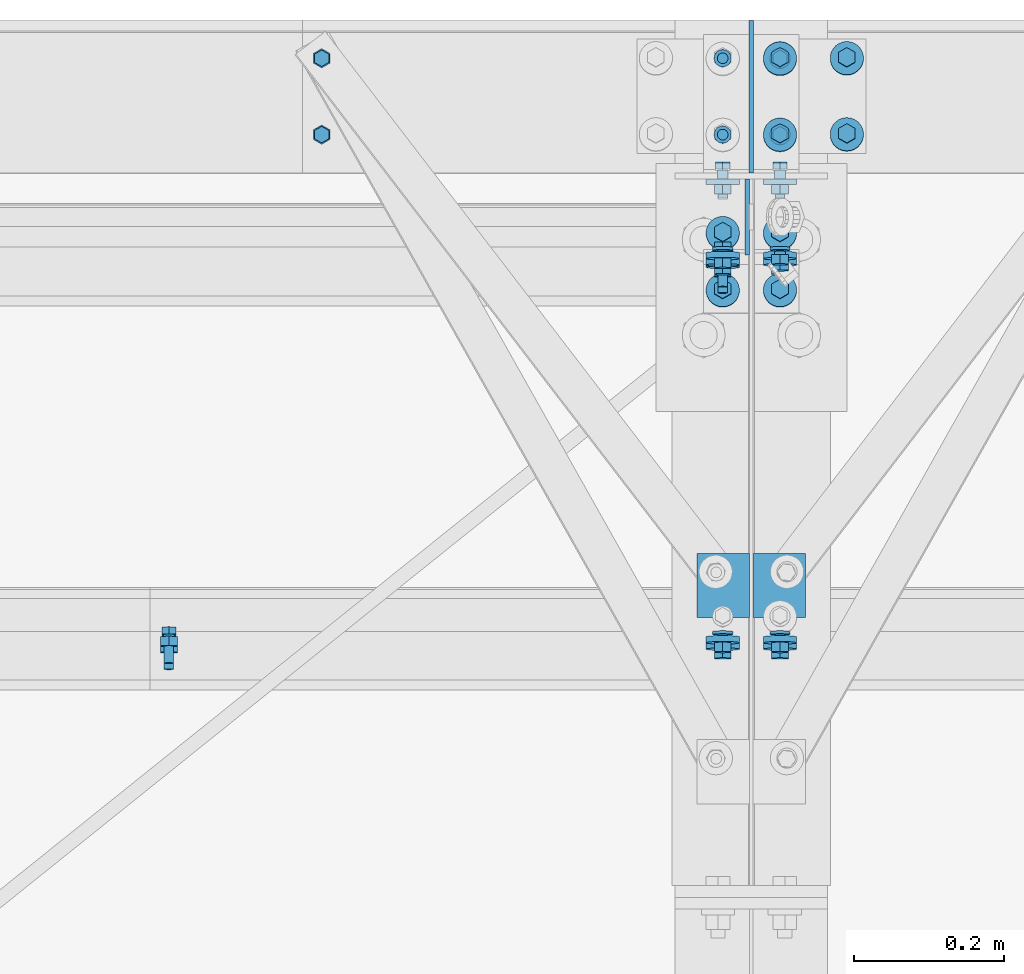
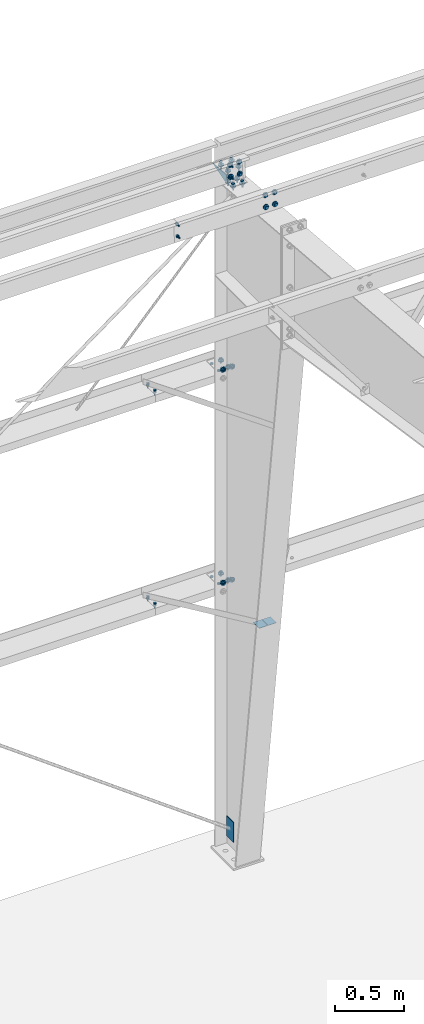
# One storey, part 92 of 185: 19 mechanical fasteners, 4 discrete accessories, 10 elements without a shape of their own.
"""IFC2X3 building model written with IfcOpenShell, lengths in millimetres."""

from ifc_helpers import new_model, si_unit, frame, origin_with_axes, origin_2d_with_axis, place, context, subcontext, project, spatial, polyline, rectangle, circle, outline, extrude, source, transform, mapped, material, type_object, element, aggregate, save


model = new_model("IFC2X3")

# Units and contexts
model_context = context("Model", 3, precision=1e-05, world=origin_with_axes())
body_context = subcontext(model_context, "Body", "Model", "MODEL_VIEW")
ifc_project = project(units=[si_unit("LENGTHUNIT", "METRE", prefix="MILLI"), si_unit("AREAUNIT", "SQUARE_METRE"), si_unit("VOLUMEUNIT", "CUBIC_METRE"), si_unit("MASSUNIT", "GRAM", prefix="KILO"), si_unit("TIMEUNIT", "SECOND"), si_unit("PLANEANGLEUNIT", "RADIAN"), si_unit("SOLIDANGLEUNIT", "STERADIAN"), si_unit("THERMODYNAMICTEMPERATUREUNIT", "DEGREE_CELSIUS"), si_unit("LUMINOUSINTENSITYUNIT", "LUMEN")], contexts=[model_context])

# Site, building, storey
site_placement = place(None, origin_with_axes())
site = spatial("IfcSite", under=ifc_project, at=site_placement, Name="Undefined", CompositionType="ELEMENT")
building_placement = place(site_placement, origin_with_axes())
building = spatial("IfcBuilding", under=site, at=building_placement, Name="Undefined", CompositionType="ELEMENT")
storey_placement = place(building_placement, origin_with_axes())
storey = spatial("IfcBuildingStorey", under=building, at=storey_placement, Name="Undefined", CompositionType="ELEMENT", Elevation=0.0)

# Assembly, mechanical fasteners
assembly_1_placement = place(storey_placement, origin_with_axes())
assembly_1 = element("IfcElementAssembly", 1, at=assembly_1_placement, inside=storey, Name="Steel Assembly", AssemblyPlace="NOTDEFINED", PredefinedType="RIGID_FRAME")
ifc_material_1 = material(Name="Undefined")
discrete_accessory_type_1 = type_object("IfcDiscreteAccessoryType", Name="Bolt assembly")
shared_shape_1 = source(origin_with_axes(), body_context, "Body", "SweptSolid", [
    extrude(circle(Radius=7.14374971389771, at=origin_2d_with_axis()), frame((0.0, -1.59000001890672, 0.0), z_axis=(0.0, 1.0, 0.0), x_axis=(1.0, 0.0, 0.0)), (0.0, 0.0, 1.0), 3.3),
    extrude(circle(Radius=13.4937496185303, at=origin_2d_with_axis()), frame((0.0, -5.5587500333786, 0.0), z_axis=(0.0, 1.0, 0.0), x_axis=(1.0, 0.0, 0.0)), (0.0, 0.0, 1.0), 4.0),
    extrude(circle(Radius=22.2250003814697, at=origin_2d_with_axis()), frame((0.0, 1.5900000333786, 0.0), z_axis=(0.0, 1.0, 0.0), x_axis=(1.0, 0.0, 0.0)), (0.0, 0.0, 1.0), 7.9),
    extrude(outline(polyline([(12.8316099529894, 0.0), (6.4158049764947, 11.1125001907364), (-6.4158049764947, 11.1125001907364), (-12.8316099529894, 0.0), (-6.4158049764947, -11.1125001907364), (6.4158049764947, -11.1125001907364), (12.8316099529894, 0.0)])), frame((0.0, 9.5275000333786, 0.0), z_axis=(0.0, 1.0, 0.0), x_axis=(1.0, 0.0, 0.0)), (0.0, 0.0, 1.0), 12.3),
])
mechanical_fastener_1_placement = place(assembly_1_placement, frame((14820.9, 31696.1295150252, 6070.67979008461), z_axis=(-1.0, 0.0, 0.0), x_axis=(0.0, -0.0830454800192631, -0.996545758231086)))
mechanical_fastener_1 = element("IfcMechanicalFastener", 2, at=mechanical_fastener_1_placement, type_object=discrete_accessory_type_1, material=ifc_material_1, Name="Bolt assembly", NominalDiameter=12.6999998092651, NominalLength=38.0999984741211, context=body_context, shape_type="MappedRepresentation", body=[
    mapped(shared_shape_1, transform((0.0, 0.0, 0.0))),
    mapped(shared_shape_1, transform((101.599998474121, 0.0, 0.0))),
])
mechanical_fastener_2_placement = place(assembly_1_placement, frame((14897.1, 31696.1295150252, 6070.67979008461), z_axis=(-1.0, 0.0, 0.0), x_axis=(0.0, -0.0830454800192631, -0.996545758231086)))
mechanical_fastener_2 = element("IfcMechanicalFastener", 3, at=mechanical_fastener_2_placement, type_object=discrete_accessory_type_1, material=ifc_material_1, Name="Bolt assembly", NominalDiameter=12.6999998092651, NominalLength=38.0999984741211, context=body_context, shape_type="MappedRepresentation", body=[
    mapped(shared_shape_1, transform((0.0, 0.0, 0.0))),
    mapped(shared_shape_1, transform((101.599998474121, 0.0, 0.0))),
])

# Assembly, mechanical fastener
assembly_2_placement = place(storey_placement, origin_with_axes())
assembly_2 = element("IfcElementAssembly", 4, at=assembly_2_placement, inside=storey, Name="Steel Assembly", AssemblyPlace="NOTDEFINED", PredefinedType="RIGID_FRAME")
mechanical_fastener_3_placement = place(assembly_2_placement, frame((14820.9, 31185.1382206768, 6113.2623980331), z_axis=(-1.0, 0.0, 0.0), x_axis=(0.0, -0.0830454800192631, -0.996545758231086)))
mechanical_fastener_3 = element("IfcMechanicalFastener", 5, at=mechanical_fastener_3_placement, type_object=discrete_accessory_type_1, material=ifc_material_1, Name="Bolt assembly", NominalDiameter=12.6999998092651, NominalLength=38.0999984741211, context=body_context, shape_type="MappedRepresentation", body=[
    mapped(shared_shape_1, transform((0.0, 0.0, 0.0))),
    mapped(shared_shape_1, transform((101.599998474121, 0.0, 0.0))),
])
aggregate(assembly_2, [mechanical_fastener_3])

assembly_3_placement = place(storey_placement, origin_with_axes())
assembly_3 = element("IfcElementAssembly", 6, at=assembly_3_placement, inside=storey, Name="Steel Assembly", AssemblyPlace="NOTDEFINED", PredefinedType="RIGID_FRAME")
mechanical_fastener_4_placement = place(assembly_3_placement, frame((14897.1, 31185.1382206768, 6113.2623980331), z_axis=(-1.0, 0.0, 0.0), x_axis=(0.0, -0.0830454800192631, -0.996545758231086)))
mechanical_fastener_4 = element("IfcMechanicalFastener", 7, at=mechanical_fastener_4_placement, type_object=discrete_accessory_type_1, material=ifc_material_1, Name="Bolt assembly", NominalDiameter=12.6999998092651, NominalLength=38.0999984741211, context=body_context, shape_type="MappedRepresentation", body=[
    mapped(shared_shape_1, transform((0.0, 0.0, 0.0))),
    mapped(shared_shape_1, transform((101.599998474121, 0.0, 0.0))),
])

# Assembly, discrete accessories
assembly_4_placement = place(storey_placement, origin_with_axes())
assembly_4 = element("IfcElementAssembly", 8, at=assembly_4_placement, inside=storey, Name="Steel Assembly", AssemblyPlace="NOTDEFINED", PredefinedType="RIGID_FRAME")
ifc_material_2 = material(Name="STEEL/55")
discrete_accessory_type_2 = type_object("IfcDiscreteAccessoryType", Name="FLANGE BRACE FLIP")
discrete_accessory_1_placement = place(assembly_4_placement, frame((14861.38125, 31251.9277679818, 2284.292), z_axis=(0.0, 1.0, 0.0), x_axis=(1.0, 0.0, 0.0)))
discrete_accessory_1 = element("IfcDiscreteAccessory", 9, at=discrete_accessory_1_placement, type_object=discrete_accessory_type_2, material=ifc_material_2, Name="FLANGE BRACE FLIP", ObjectType="PL1/8\"X2 3/4\"", context=body_context, shape_type="SweptSolid", body=[
    extrude(rectangle(XDim=3.416, YDim=85.725, at=origin_2d_with_axis()), frame((69.8499999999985, 0.0, 0.0), z_axis=(-1.0, 0.0, 0.0), x_axis=(0.0, -1.0, 0.0)), (0.0, 0.0, 1.0), 69.9),
])
discrete_accessory_2_placement = place(assembly_4_placement, frame((14856.61875, 31251.9277679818, 2284.292), z_axis=(0.0, 1.0, 0.0), x_axis=(-1.0, 0.0, 0.0)))
discrete_accessory_2 = element("IfcDiscreteAccessory", 10, at=discrete_accessory_2_placement, type_object=discrete_accessory_type_2, material=ifc_material_2, Name="FLANGE BRACE FLIP", ObjectType="PL1/8\"X2 3/4\"", context=body_context, shape_type="SweptSolid", body=[
    extrude(rectangle(XDim=3.416, YDim=85.725, at=origin_2d_with_axis()), frame((69.8499999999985, 0.0, 0.0), z_axis=(-1.0, 0.0, 0.0), x_axis=(0.0, -1.0, 0.0)), (0.0, 0.0, 1.0), 69.9),
])

# Assembly, mechanical fastener
assembly_5_placement = place(storey_placement, origin_with_axes())
assembly_5 = element("IfcElementAssembly", 11, at=assembly_5_placement, inside=storey, Name="Steel Assembly", AssemblyPlace="NOTDEFINED", PredefinedType="RIGID_FRAME")
shared_shape_2 = source(origin_with_axes(), body_context, "Body", "SweptSolid", [
    extrude(circle(Radius=7.14374971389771, at=origin_2d_with_axis()), frame((0.0, -0.1, 0.0), z_axis=(0.0, 1.0, 0.0), x_axis=(1.0, 0.0, 0.0)), (0.0, 0.0, 1.0), 8.0),
    extrude(circle(Radius=7.14374971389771, at=origin_2d_with_axis()), frame((0.0, -4.66250000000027, 0.0), z_axis=(0.0, 1.0, 0.0), x_axis=(1.0, 0.0, 0.0)), (0.0, 0.0, 1.0), 4.8),
    extrude(outline(polyline([(10.9985221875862, 0.0), (5.4992610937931, 9.52499961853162), (-5.4992610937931, 9.52499961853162), (-10.9985221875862, 0.0), (-5.4992610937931, -9.52499961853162), (5.4992610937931, -9.52499961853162), (10.9985221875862, 0.0)])), frame((0.0, -14.2874996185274, 0.0), z_axis=(0.0, 1.0, 0.0), x_axis=(1.0, 0.0, 0.0)), (0.0, 0.0, 1.0), 9.5),
    extrude(circle(Radius=6.34999990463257, at=origin_2d_with_axis()), frame((0.0, -4.76250000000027, 0.0), z_axis=(0.0, 1.0, 0.0), x_axis=(1.0, 0.0, 0.0)), (0.0, 0.0, 1.0), 38.1),
    extrude(circle(Radius=22.2250003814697, at=origin_2d_with_axis()), frame((0.0, 7.87399999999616, 0.0), z_axis=(0.0, 1.0, 0.0), x_axis=(1.0, 0.0, 0.0)), (0.0, 0.0, 1.0), 7.9),
    extrude(outline(polyline([(12.8316099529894, 0.0), (6.4158049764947, 11.1125001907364), (-6.4158049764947, 11.1125001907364), (-12.8316099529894, 0.0), (-6.4158049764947, -11.1125001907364), (6.4158049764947, -11.1125001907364), (12.8316099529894, 0.0)])), frame((0.0, 15.8114999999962, 0.0), z_axis=(0.0, 1.0, 0.0), x_axis=(1.0, 0.0, 0.0)), (0.0, 0.0, 1.0), 12.3),
])
mechanical_fastener_5_placement = place(assembly_5_placement, frame((14859.0, 31800.8, 4203.7), z_axis=(1.0, 0.0, 0.0), x_axis=(0.0, 0.0, 1.0)))
mechanical_fastener_5 = element("IfcMechanicalFastener", 12, at=mechanical_fastener_5_placement, type_object=discrete_accessory_type_1, material=ifc_material_1, Name="Bolt assembly", NominalDiameter=12.6999998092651, NominalLength=38.0999984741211, context=body_context, shape_type="MappedRepresentation", body=[
    mapped(shared_shape_2, transform((0.0, 0.0, -38.0999984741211))),
    mapped(shared_shape_2, transform((0.0, 0.0, 38.0999984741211))),
])

assembly_6_placement = place(storey_placement, origin_with_axes())
assembly_6 = element("IfcElementAssembly", 13, at=assembly_6_placement, inside=storey, Name="Steel Assembly", AssemblyPlace="NOTDEFINED", PredefinedType="RIGID_FRAME")
mechanical_fastener_6_placement = place(assembly_6_placement, frame((14859.0, 31800.8, 2324.1), z_axis=(1.0, 0.0, 0.0), x_axis=(0.0, 0.0, 1.0)))
mechanical_fastener_6 = element("IfcMechanicalFastener", 14, at=mechanical_fastener_6_placement, type_object=discrete_accessory_type_1, material=ifc_material_1, Name="Bolt assembly", NominalDiameter=12.6999998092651, NominalLength=38.0999984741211, context=body_context, shape_type="MappedRepresentation", body=[
    mapped(shared_shape_2, transform((0.0, 0.0, -38.0999984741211))),
    mapped(shared_shape_2, transform((0.0, 0.0, 38.0999984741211))),
])

# Discrete accessory
discrete_accessory_type_3 = type_object("IfcDiscreteAccessoryType", Name="BACKUP PL SINGLE SLOT")
discrete_accessory_3_placement = place(assembly_4_placement, frame((14853.4437512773, 31742.1288478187, 256.370463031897), z_axis=(-0.000896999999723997, -0.999999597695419, 0.0), x_axis=(0.0, 0.0, -1.0)))
discrete_accessory_3 = element("IfcDiscreteAccessory", 15, at=discrete_accessory_3_placement, type_object=discrete_accessory_type_3, material=ifc_material_2, Name="BACKUP PL SINGLE SLOT", ObjectType="FL1/4\"X4\"", context=body_context, shape_type="SweptSolid", body=[
    extrude(rectangle(XDim=6.35, YDim=101.6, at=origin_2d_with_axis()), frame((177.800000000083, 0.0, 0.0), z_axis=(-1.0, 0.0, 0.0), x_axis=(0.0, -1.0, 0.0)), (0.0, 0.0, 1.0), 177.8),
])

# Assembly, mechanical fasteners
assembly_7_placement = place(storey_placement, origin_with_axes())
assembly_7 = element("IfcElementAssembly", 16, at=assembly_7_placement, inside=storey, Name="Steel Assembly", AssemblyPlace="NOTDEFINED", PredefinedType="RIGID_FRAME")
shared_shape_3 = source(origin_with_axes(), body_context, "Body", "SweptSolid", [
    extrude(circle(Radius=7.14374971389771, at=origin_2d_with_axis()), frame((0.0, 0.0, 0.0), z_axis=(0.0, 1.0, 0.0), x_axis=(1.0, 0.0, 0.0)), (0.0, 0.0, 1.0), 4.9),
    extrude(outline(polyline([(12.8316099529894, 0.0), (6.4158049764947, 11.1125001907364), (-6.4158049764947, 11.1125001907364), (-12.8316099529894, 0.0), (-6.4158049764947, -11.1125001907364), (6.4158049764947, -11.1125001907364), (12.8316099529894, 0.0)])), frame((0.0, 4.76000382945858, 0.0), z_axis=(0.0, 1.0, 0.0), x_axis=(1.0, 0.0, 0.0)), (0.0, 0.0, 1.0), 12.3),
])
mechanical_fastener_7_placement = place(assembly_7_placement, frame((14897.1, 31696.1295150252, 6070.67979008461), z_axis=(-1.0, 0.0, 0.0), x_axis=(0.0, -0.0830454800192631, -0.996545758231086)))
mechanical_fastener_7 = element("IfcMechanicalFastener", 17, at=mechanical_fastener_7_placement, type_object=discrete_accessory_type_1, material=ifc_material_1, Name="Bolt assembly", NominalDiameter=12.6999998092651, NominalLength=50.7999992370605, context=body_context, shape_type="MappedRepresentation", body=[
    mapped(shared_shape_3, transform((0.0, 0.0, 0.0))),
    mapped(shared_shape_3, transform((101.599998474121, 0.0, 0.0))),
])
shared_shape_4 = source(origin_with_axes(), body_context, "Body", "SweptSolid", [
    extrude(circle(Radius=7.14374971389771, at=origin_2d_with_axis()), frame((0.0, 0.0, 0.0), z_axis=(0.0, 1.0, 0.0), x_axis=(1.0, 0.0, 0.0)), (0.0, 0.0, 1.0), 4.9),
    extrude(outline(polyline([(12.8316099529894, 0.0), (6.4158049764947, 11.1125001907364), (-6.4158049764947, 11.1125001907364), (-12.8316099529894, 0.0), (-6.4158049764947, -11.1125001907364), (6.4158049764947, -11.1125001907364), (12.8316099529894, 0.0)])), frame((0.0, -11.9062498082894, 0.0), z_axis=(0.0, 1.0, 0.0), x_axis=(1.0, 0.0, 0.0)), (0.0, 0.0, 1.0), 7.9),
    extrude(circle(Radius=6.34999990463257, at=origin_2d_with_axis()), frame((0.0, -3.96874999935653, 0.0), z_axis=(0.0, 1.0, 0.0), x_axis=(1.0, 0.0, 0.0)), (0.0, 0.0, 1.0), 50.8),
    extrude(circle(Radius=13.4937496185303, at=origin_2d_with_axis()), frame((0.0, -3.96874999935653, 0.0), z_axis=(0.0, 1.0, 0.0), x_axis=(1.0, 0.0, 0.0)), (0.0, 0.0, 1.0), 4.0),
    extrude(circle(Radius=22.2250003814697, at=origin_2d_with_axis()), frame((0.0, 4.76000382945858, 0.0), z_axis=(0.0, 1.0, 0.0), x_axis=(1.0, 0.0, 0.0)), (0.0, 0.0, 1.0), 7.9),
    extrude(outline(polyline([(12.8316099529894, 0.0), (6.4158049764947, 11.1125001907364), (-6.4158049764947, 11.1125001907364), (-12.8316099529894, 0.0), (-6.4158049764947, -11.1125001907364), (6.4158049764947, -11.1125001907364), (12.8316099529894, 0.0)])), frame((0.0, 12.6975038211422, 0.0), z_axis=(0.0, 1.0, 0.0), x_axis=(1.0, 0.0, 0.0)), (0.0, 0.0, 1.0), 12.3),
])
mechanical_fastener_8_placement = place(assembly_7_placement, frame((14820.9, 31696.1295150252, 6070.67979008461), z_axis=(-1.0, 0.0, 0.0), x_axis=(0.0, -0.0830454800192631, -0.996545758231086)))
mechanical_fastener_8 = element("IfcMechanicalFastener", 18, at=mechanical_fastener_8_placement, type_object=discrete_accessory_type_1, material=ifc_material_1, Name="Bolt assembly", NominalDiameter=12.6999998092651, NominalLength=50.7999992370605, context=body_context, shape_type="MappedRepresentation", body=[
    mapped(shared_shape_4, transform((0.0, 0.0, 0.0))),
    mapped(shared_shape_4, transform((101.599998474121, 0.0, 0.0))),
])
aggregate(assembly_7, [mechanical_fastener_7, mechanical_fastener_8])

# Assembly, mechanical fastener
assembly_8_placement = place(storey_placement, origin_with_axes())
assembly_8 = element("IfcElementAssembly", 19, at=assembly_8_placement, inside=storey, Name="Steel Assembly", AssemblyPlace="NOTDEFINED", PredefinedType="RIGID_FRAME")
shared_shape_5 = source(origin_with_axes(), body_context, "Body", "SweptSolid", [
    extrude(circle(Radius=7.14374971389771, at=origin_2d_with_axis()), frame((0.0, -1.4900000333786, 0.0), z_axis=(0.0, 1.0, 0.0), x_axis=(1.0, 0.0, 0.0)), (0.0, 0.0, 1.0), 3.2),
    extrude(circle(Radius=7.14374971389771, at=origin_2d_with_axis()), frame((0.0, -1.4900000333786, 0.0), z_axis=(0.0, 1.0, 0.0), x_axis=(1.0, 0.0, 0.0)), (0.0, 0.0, 1.0), 3.2),
    extrude(outline(polyline([(10.9985221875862, 0.0), (5.4992610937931, 9.52499961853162), (-5.4992610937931, 9.52499961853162), (-10.9985221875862, 0.0), (-5.4992610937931, -9.52499961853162), (5.4992610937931, -9.52499961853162), (10.9985221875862, 0.0)])), frame((0.0, -11.1149996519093, 0.0), z_axis=(0.0, 1.0, 0.0), x_axis=(1.0, 0.0, 0.0)), (0.0, 0.0, 1.0), 9.5),
    extrude(circle(Radius=6.34999990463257, at=origin_2d_with_axis()), frame((0.0, -1.59000001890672, 0.0), z_axis=(0.0, 1.0, 0.0), x_axis=(1.0, 0.0, 0.0)), (0.0, 0.0, 1.0), 38.1),
    extrude(outline(polyline([(12.8316099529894, 0.0), (6.4158049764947, 11.1125001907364), (-6.4158049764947, 11.1125001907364), (-12.8316099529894, 0.0), (-6.4158049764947, -11.1125001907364), (6.4158049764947, -11.1125001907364), (12.8316099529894, 0.0)])), frame((0.0, 1.5900000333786, 0.0), z_axis=(0.0, 1.0, 0.0), x_axis=(1.0, 0.0, 0.0)), (0.0, 0.0, 1.0), 12.3),
])
mechanical_fastener_9_placement = place(assembly_8_placement, frame((14287.5, 31953.2, 4165.6), z_axis=(1.0, 0.0, 0.0), x_axis=(0.0, -1.0, 0.0)))
mechanical_fastener_9 = element("IfcMechanicalFastener", 20, at=mechanical_fastener_9_placement, type_object=discrete_accessory_type_1, material=ifc_material_1, Name="Bolt assembly", NominalDiameter=12.6999998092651, NominalLength=38.0999984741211, context=body_context, shape_type="MappedRepresentation", body=[
    mapped(shared_shape_5, transform((0.0, 0.0, 0.0))),
    mapped(shared_shape_5, transform((101.599998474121, 0.0, 0.0))),
])

assembly_9_placement = place(storey_placement, origin_with_axes())
assembly_9 = element("IfcElementAssembly", 21, at=assembly_9_placement, inside=storey, Name="Steel Assembly", AssemblyPlace="NOTDEFINED", PredefinedType="RIGID_FRAME")
mechanical_fastener_10_placement = place(assembly_9_placement, frame((14287.5, 31953.2, 2286.0), z_axis=(1.0, 0.0, 0.0), x_axis=(0.0, -1.0, 0.0)))
mechanical_fastener_10 = element("IfcMechanicalFastener", 22, at=mechanical_fastener_10_placement, type_object=discrete_accessory_type_1, material=ifc_material_1, Name="Bolt assembly", NominalDiameter=12.6999998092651, NominalLength=38.0999984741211, context=body_context, shape_type="MappedRepresentation", body=[
    mapped(shared_shape_5, transform((0.0, 0.0, 0.0))),
    mapped(shared_shape_5, transform((101.599998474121, 0.0, 0.0))),
])

# Mechanical fastener
mechanical_fastener_11_placement = place(assembly_3_placement, frame((14084.3, 31185.1382206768, 6113.2623980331), z_axis=(-1.0, 0.0, 0.0), x_axis=(0.0, -0.0830454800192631, -0.996545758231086)))
mechanical_fastener_11 = element("IfcMechanicalFastener", 23, at=mechanical_fastener_11_placement, type_object=discrete_accessory_type_1, material=ifc_material_1, Name="Bolt assembly", NominalDiameter=12.6999998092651, NominalLength=38.0999984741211, context=body_context, shape_type="MappedRepresentation", body=[
    mapped(shared_shape_5, transform((0.0, 0.0, 0.0))),
    mapped(shared_shape_5, transform((101.599998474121, 0.0, 0.0))),
])

aggregate(assembly_3, [mechanical_fastener_4, mechanical_fastener_11])

# Discrete accessory
discrete_accessory_type_4 = type_object("IfcDiscreteAccessoryType", Name="Gusset")
discrete_accessory_4_placement = place(assembly_4_placement, frame((14859.0, 31800.8, 5901.05124136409), z_axis=(-1.0, 0.0, 0.0), x_axis=(0.0, 0.996545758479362, -0.0830454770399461)))
discrete_accessory_4 = element("IfcDiscreteAccessory", 24, at=discrete_accessory_4_placement, type_object=discrete_accessory_type_4, material=ifc_material_2, Name="Gusset", ObjectType="1/4\"X2 7/8\"", context=body_context, shape_type="SweptSolid", body=[
    extrude(outline(polyline([(0.0, 0.0), (203.427200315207, -7.38509697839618e-10), (6.32806539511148, 75.9367904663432), (0.0, 0.0)])), frame((0.0, 0.0, -3.175), z_axis=(0.0, 0.0, 1.0), x_axis=(1.0, 0.0, 0.0)), (0.0, 0.0, 1.0), 6.4),
])

# Mechanical fastener
ifc_material_3 = material(Name="7990")
shared_shape_6 = source(origin_with_axes(), body_context, "Body", "SweptSolid", [
    extrude(circle(Radius=7.14374971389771, at=origin_2d_with_axis()), frame((0.0, -1.4900000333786, 0.0), z_axis=(0.0, 1.0, 0.0), x_axis=(1.0, 0.0, 0.0)), (0.0, 0.0, 1.0), 3.2),
    extrude(circle(Radius=7.14374971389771, at=origin_2d_with_axis()), frame((0.0, -1.4900000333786, 0.0), z_axis=(0.0, 1.0, 0.0), x_axis=(1.0, 0.0, 0.0)), (0.0, 0.0, 1.0), 3.2),
    extrude(circle(Radius=11.4299998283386, at=origin_2d_with_axis()), frame((0.0, 1.5900000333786, 0.0), z_axis=(0.0, 1.0, 0.0), x_axis=(1.0, 0.0, 0.0)), (0.0, 0.0, 1.0), 4.2),
    extrude(outline(polyline([(12.171698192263, 0.0), (6.08584909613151, 10.5409998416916), (-6.08584909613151, 10.5409998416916), (-12.171698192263, 0.0), (-6.08584909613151, -10.5409998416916), (6.08584909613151, -10.5409998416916), (12.171698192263, 0.0)])), frame((0.0, 5.78099997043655, 0.0), z_axis=(0.0, 1.0, 0.0), x_axis=(1.0, 0.0, 0.0)), (0.0, 0.0, 1.0), 8.4),
])
mechanical_fastener_12_placement = place(assembly_8_placement, frame((14820.9, 31953.2, 4165.6), z_axis=(1.0, 0.0, 0.0), x_axis=(0.0, -1.0, 0.0)))
mechanical_fastener_12 = element("IfcMechanicalFastener", 25, at=mechanical_fastener_12_placement, type_object=discrete_accessory_type_1, material=ifc_material_3, Name="Bolt assembly", NominalDiameter=12.6999998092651, NominalLength=38.0999984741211, context=body_context, shape_type="MappedRepresentation", body=[
    mapped(shared_shape_6, transform((0.0, 0.0, 0.0))),
    mapped(shared_shape_6, transform((101.599998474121, 0.0, 0.0))),
])

aggregate(assembly_8, [mechanical_fastener_12, mechanical_fastener_9])

mechanical_fastener_13_placement = place(assembly_9_placement, frame((14820.9, 31953.2, 2286.0), z_axis=(1.0, 0.0, 0.0), x_axis=(0.0, -1.0, 0.0)))
mechanical_fastener_13 = element("IfcMechanicalFastener", 26, at=mechanical_fastener_13_placement, type_object=discrete_accessory_type_1, material=ifc_material_3, Name="Bolt assembly", NominalDiameter=12.6999998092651, NominalLength=38.0999984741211, context=body_context, shape_type="MappedRepresentation", body=[
    mapped(shared_shape_6, transform((0.0, 0.0, 0.0))),
    mapped(shared_shape_6, transform((101.599998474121, 0.0, 0.0))),
])

aggregate(assembly_9, [mechanical_fastener_13, mechanical_fastener_10])

shared_shape_7 = source(origin_with_axes(), body_context, "Body", "SweptSolid", [
    extrude(circle(Radius=7.14374971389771, at=origin_2d_with_axis()), frame((0.0, -1.59000001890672, 0.0), z_axis=(0.0, 1.0, 0.0), x_axis=(1.0, 0.0, 0.0)), (0.0, 0.0, 1.0), 3.2),
    extrude(circle(Radius=7.14374971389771, at=origin_2d_with_axis()), frame((0.0, -4.66250000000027, 0.0), z_axis=(0.0, 1.0, 0.0), x_axis=(1.0, 0.0, 0.0)), (0.0, 0.0, 1.0), 4.8),
    extrude(circle(Radius=7.14374971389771, at=origin_2d_with_axis()), frame((0.0, -1.59000001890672, 0.0), z_axis=(0.0, 1.0, 0.0), x_axis=(1.0, 0.0, 0.0)), (0.0, 0.0, 1.0), 3.2),
    extrude(outline(polyline([(10.9985221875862, 0.0), (5.4992610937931, 9.52499961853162), (-5.4992610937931, 9.52499961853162), (-10.9985221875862, 0.0), (-5.4992610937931, -9.52499961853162), (5.4992610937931, -9.52499961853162), (10.9985221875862, 0.0)])), frame((0.0, -18.2562496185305, 0.0), z_axis=(0.0, 1.0, 0.0), x_axis=(1.0, 0.0, 0.0)), (0.0, 0.0, 1.0), 9.5),
    extrude(circle(Radius=6.34999990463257, at=origin_2d_with_axis()), frame((0.0, -8.73125000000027, 0.0), z_axis=(0.0, 1.0, 0.0), x_axis=(1.0, 0.0, 0.0)), (0.0, 0.0, 1.0), 38.1),
    extrude(circle(Radius=13.4937496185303, at=origin_2d_with_axis()), frame((0.0, -8.73125000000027, 0.0), z_axis=(0.0, 1.0, 0.0), x_axis=(1.0, 0.0, 0.0)), (0.0, 0.0, 1.0), 4.0),
    extrude(circle(Radius=22.2250003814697, at=origin_2d_with_axis()), frame((0.0, 1.5900000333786, 0.0), z_axis=(0.0, 1.0, 0.0), x_axis=(1.0, 0.0, 0.0)), (0.0, 0.0, 1.0), 7.9),
    extrude(outline(polyline([(12.8316099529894, 0.0), (6.4158049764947, 11.1125001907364), (-6.4158049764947, 11.1125001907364), (-12.8316099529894, 0.0), (-6.4158049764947, -11.1125001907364), (6.4158049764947, -11.1125001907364), (12.8316099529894, 0.0)])), frame((0.0, 9.5275000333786, 0.0), z_axis=(0.0, 1.0, 0.0), x_axis=(1.0, 0.0, 0.0)), (0.0, 0.0, 1.0), 12.3),
])
mechanical_fastener_14_placement = place(assembly_5_placement, frame((14897.1, 31953.2, 4165.6), z_axis=(1.0, 0.0, 0.0), x_axis=(0.0, -1.0, 0.0)))
mechanical_fastener_14 = element("IfcMechanicalFastener", 27, at=mechanical_fastener_14_placement, type_object=discrete_accessory_type_1, material=ifc_material_1, Name="Bolt assembly", NominalDiameter=12.6999998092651, NominalLength=38.0999984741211, context=body_context, shape_type="MappedRepresentation", body=[
    mapped(shared_shape_7, transform((0.0, 0.0, 0.0))),
    mapped(shared_shape_7, transform((101.599998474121, 0.0, 0.0))),
])

aggregate(assembly_5, [mechanical_fastener_5, mechanical_fastener_14])

mechanical_fastener_15_placement = place(assembly_6_placement, frame((14897.1, 31953.2, 2286.0), z_axis=(1.0, 0.0, 0.0), x_axis=(0.0, -1.0, 0.0)))
mechanical_fastener_15 = element("IfcMechanicalFastener", 28, at=mechanical_fastener_15_placement, type_object=discrete_accessory_type_1, material=ifc_material_1, Name="Bolt assembly", NominalDiameter=12.6999998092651, NominalLength=38.0999984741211, context=body_context, shape_type="MappedRepresentation", body=[
    mapped(shared_shape_7, transform((0.0, 0.0, 0.0))),
    mapped(shared_shape_7, transform((101.599998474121, 0.0, 0.0))),
])

aggregate(assembly_6, [mechanical_fastener_6, mechanical_fastener_15])

shared_shape_8 = source(origin_with_axes(), body_context, "Body", "SweptSolid", [
    extrude(circle(Radius=7.14374971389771, at=origin_2d_with_axis()), frame((0.0, -0.1, 0.0), z_axis=(0.0, 1.0, 0.0), x_axis=(1.0, 0.0, 0.0)), (0.0, 0.0, 1.0), 8.1),
    extrude(circle(Radius=7.14374971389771, at=origin_2d_with_axis()), frame((0.0, -3.08000006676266, 0.0), z_axis=(0.0, 1.0, 0.0), x_axis=(1.0, 0.0, 0.0)), (0.0, 0.0, 1.0), 3.2),
    extrude(outline(polyline([(12.8316099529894, 0.0), (6.4158049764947, 11.1125001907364), (-6.4158049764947, 11.1125001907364), (-12.8316099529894, 0.0), (-6.4158049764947, -11.1125001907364), (6.4158049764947, -11.1125001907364), (12.8316099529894, 0.0)])), frame((0.0, -11.1175003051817, 0.0), z_axis=(0.0, 1.0, 0.0), x_axis=(1.0, 0.0, 0.0)), (0.0, 0.0, 1.0), 7.9),
    extrude(circle(Radius=6.34999990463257, at=origin_2d_with_axis()), frame((0.0, -3.18000030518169, 0.0), z_axis=(0.0, 1.0, 0.0), x_axis=(1.0, 0.0, 0.0)), (0.0, 0.0, 1.0), 50.8),
    extrude(circle(Radius=22.2250003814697, at=origin_2d_with_axis()), frame((0.0, 7.95019856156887, 0.0), z_axis=(0.0, 1.0, 0.0), x_axis=(1.0, 0.0, 0.0)), (0.0, 0.0, 1.0), 7.9),
    extrude(outline(polyline([(12.8316099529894, 0.0), (6.4158049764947, 11.1125001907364), (-6.4158049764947, 11.1125001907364), (-12.8316099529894, 0.0), (-6.4158049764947, -11.1125001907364), (6.4158049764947, -11.1125001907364), (12.8316099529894, 0.0)])), frame((0.0, 15.8876985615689, 0.0), z_axis=(0.0, 1.0, 0.0), x_axis=(1.0, 0.0, 0.0)), (0.0, 0.0, 1.0), 12.3),
])
mechanical_fastener_16_placement = place(assembly_1_placement, frame((14859.0, 31721.4417772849, 5915.64218374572), z_axis=(-1.0, 0.0, 0.0), x_axis=(0.0, 0.996545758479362, -0.0830454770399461)))
mechanical_fastener_16 = element("IfcMechanicalFastener", 29, at=mechanical_fastener_16_placement, type_object=discrete_accessory_type_1, material=ifc_material_1, Name="Bolt assembly", NominalDiameter=12.6999998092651, NominalLength=50.7999992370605, context=body_context, shape_type="MappedRepresentation", body=[
    mapped(shared_shape_8, transform((0.0, 0.0, -38.0999984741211))),
    mapped(shared_shape_8, transform((0.0, 0.0, 38.0999984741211))),
])

aggregate(assembly_1, [mechanical_fastener_1, mechanical_fastener_2, mechanical_fastener_16])

shared_shape_9 = source(origin_with_axes(), body_context, "Body", "SweptSolid", [
    extrude(circle(Radius=7.14374971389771, at=origin_2d_with_axis()), frame((0.0, -4.65999985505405, 0.0), z_axis=(0.0, 1.0, 0.0), x_axis=(1.0, 0.0, 0.0)), (0.0, 0.0, 1.0), 4.8),
    extrude(circle(Radius=7.14374971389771, at=origin_2d_with_axis()), frame((0.0, -0.1, 0.0), z_axis=(0.0, 1.0, 0.0), x_axis=(1.0, 0.0, 0.0)), (0.0, 0.0, 1.0), 8.1),
    extrude(outline(polyline([(12.8316099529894, 0.0), (6.4158049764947, 11.1125001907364), (-6.4158049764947, 11.1125001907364), (-12.8316099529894, 0.0), (-6.4158049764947, -11.1125001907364), (6.4158049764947, -11.1125001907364), (12.8316099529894, 0.0)])), frame((0.0, -12.697499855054, 0.0), z_axis=(0.0, 1.0, 0.0), x_axis=(1.0, 0.0, 0.0)), (0.0, 0.0, 1.0), 7.9),
    extrude(circle(Radius=6.34999990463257, at=origin_2d_with_axis()), frame((0.0, -4.75999985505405, 0.0), z_axis=(0.0, 1.0, 0.0), x_axis=(1.0, 0.0, 0.0)), (0.0, 0.0, 1.0), 50.8),
    extrude(circle(Radius=22.2250003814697, at=origin_2d_with_axis()), frame((0.0, 7.95019856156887, 0.0), z_axis=(0.0, 1.0, 0.0), x_axis=(1.0, 0.0, 0.0)), (0.0, 0.0, 1.0), 7.9),
    extrude(outline(polyline([(12.8316099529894, 0.0), (6.4158049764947, 11.1125001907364), (-6.4158049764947, 11.1125001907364), (-12.8316099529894, 0.0), (-6.4158049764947, -11.1125001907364), (6.4158049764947, -11.1125001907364), (12.8316099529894, 0.0)])), frame((0.0, 15.8876985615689, 0.0), z_axis=(0.0, 1.0, 0.0), x_axis=(1.0, 0.0, 0.0)), (0.0, 0.0, 1.0), 12.3),
])
mechanical_fastener_17_placement = place(assembly_4_placement, frame((14859.0, 31645.5049905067, 5921.97024931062), z_axis=(1.0, 0.0, 0.0), x_axis=(0.0, -0.996545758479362, 0.0830454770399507)))
mechanical_fastener_17 = element("IfcMechanicalFastener", 30, at=mechanical_fastener_17_placement, type_object=discrete_accessory_type_1, material=ifc_material_1, Name="Bolt assembly", NominalDiameter=12.6999998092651, NominalLength=50.7999992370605, context=body_context, shape_type="MappedRepresentation", body=[
    mapped(shared_shape_9, transform((0.0, 0.0, -38.0999984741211))),
    mapped(shared_shape_9, transform((0.0, 0.0, 38.0999984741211))),
])

aggregate(assembly_4, [discrete_accessory_3, discrete_accessory_4, discrete_accessory_1, discrete_accessory_2, mechanical_fastener_17])

# Assembly, mechanical fasteners
assembly_10_placement = place(storey_placement, origin_with_axes())
assembly_10 = element("IfcElementAssembly", 31, at=assembly_10_placement, inside=storey, Name="Steel Assembly", AssemblyPlace="NOTDEFINED", PredefinedType="RIGID_FRAME")
shared_shape_10 = source(origin_with_axes(), body_context, "Body", "SweptSolid", [
    extrude(circle(Radius=7.14499998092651, at=origin_2d_with_axis()), frame((0.0, -7.8375000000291, 0.0), z_axis=(0.0, 1.0, 0.0), x_axis=(1.0, 0.0, 0.0)), (0.0, 0.0, 1.0), 6.3),
    extrude(circle(Radius=7.14499998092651, at=origin_2d_with_axis()), frame((0.0, -1.58749999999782, 0.0), z_axis=(0.0, 1.0, 0.0), x_axis=(1.0, 0.0, 0.0)), (0.0, 0.0, 1.0), 1.6),
    extrude(circle(Radius=7.14499998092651, at=origin_2d_with_axis()), frame((0.0, -0.1, 0.0), z_axis=(0.0, 1.0, 0.0), x_axis=(1.0, 0.0, 0.0)), (0.0, 0.0, 1.0), 8.1),
    extrude(outline(polyline([(12.8316099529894, 0.0), (6.4158049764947, 11.1125001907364), (-6.4158049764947, 11.1125001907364), (-12.8316099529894, 0.0), (-6.4158049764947, -11.1125001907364), (6.4158049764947, -11.1125001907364), (12.8316099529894, 0.0)])), frame((0.0, -15.8750000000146, 0.0), z_axis=(0.0, 1.0, 0.0), x_axis=(1.0, 0.0, 0.0)), (0.0, 0.0, 1.0), 7.9),
    extrude(circle(Radius=6.34999990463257, at=origin_2d_with_axis()), frame((0.0, -7.93749389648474, 0.0), z_axis=(0.0, 1.0, 0.0), x_axis=(1.0, 0.0, 0.0)), (0.0, 0.0, 1.0), 50.8),
    extrude(circle(Radius=22.2250003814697, at=origin_2d_with_axis()), frame((0.0, 7.95019856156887, 0.0), z_axis=(0.0, 1.0, 0.0), x_axis=(1.0, 0.0, 0.0)), (0.0, 0.0, 1.0), 7.9),
    extrude(outline(polyline([(12.8316099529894, 0.0), (6.4158049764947, 11.1125001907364), (-6.4158049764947, 11.1125001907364), (-12.8316099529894, 0.0), (-6.4158049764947, -11.1125001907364), (6.4158049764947, -11.1125001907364), (12.8316099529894, 0.0)])), frame((0.0, 15.8876985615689, 0.0), z_axis=(0.0, 1.0, 0.0), x_axis=(1.0, 0.0, 0.0)), (0.0, 0.0, 1.0), 12.3),
])
mechanical_fastener_18_placement = place(assembly_10_placement, frame((14897.1, 31953.3754762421, 5896.3143754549), z_axis=(1.0, 0.0, 0.0), x_axis=(0.0, -0.996545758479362, 0.0830454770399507)))
mechanical_fastener_18 = element("IfcMechanicalFastener", 32, at=mechanical_fastener_18_placement, type_object=discrete_accessory_type_1, material=ifc_material_1, Name="Bolt assembly", NominalDiameter=12.6999998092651, NominalLength=50.7999992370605, context=body_context, shape_type="MappedRepresentation", body=[
    mapped(shared_shape_10, transform((0.0, 0.0, 0.0))),
    mapped(shared_shape_10, transform((101.599998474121, 0.0, 0.0))),
])
shared_shape_11 = source(origin_with_axes(), body_context, "Body", "SweptSolid", [
    extrude(circle(Radius=7.14499998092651, at=origin_2d_with_axis()), frame((0.0, -7.8375000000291, 0.0), z_axis=(0.0, 1.0, 0.0), x_axis=(1.0, 0.0, 0.0)), (0.0, 0.0, 1.0), 6.3),
    extrude(circle(Radius=7.14499998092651, at=origin_2d_with_axis()), frame((0.0, -1.68750355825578, 0.0), z_axis=(0.0, 1.0, 0.0), x_axis=(1.0, 0.0, 0.0)), (0.0, 0.0, 1.0), 1.7),
    extrude(outline(polyline([(12.8316099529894, 0.0), (6.4158049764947, 11.1125001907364), (-6.4158049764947, 11.1125001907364), (-12.8316099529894, 0.0), (-6.4158049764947, -11.1125001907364), (6.4158049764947, -11.1125001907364), (12.8316099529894, 0.0)])), frame((0.0, -15.8750000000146, 0.0), z_axis=(0.0, 1.0, 0.0), x_axis=(1.0, 0.0, 0.0)), (0.0, 0.0, 1.0), 7.9),
    extrude(circle(Radius=6.34999990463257, at=origin_2d_with_axis()), frame((0.0, -7.93749389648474, 0.0), z_axis=(0.0, 1.0, 0.0), x_axis=(1.0, 0.0, 0.0)), (0.0, 0.0, 1.0), 50.8),
    extrude(circle(Radius=22.2250003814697, at=origin_2d_with_axis()), frame((0.0, 0.0, 0.0), z_axis=(0.0, 1.0, 0.0), x_axis=(1.0, 0.0, 0.0)), (0.0, 0.0, 1.0), 7.9),
    extrude(outline(polyline([(12.8316099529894, 0.0), (6.4158049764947, 11.1125001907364), (-6.4158049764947, 11.1125001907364), (-12.8316099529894, 0.0), (-6.4158049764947, -11.1125001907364), (6.4158049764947, -11.1125001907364), (12.8316099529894, 0.0)])), frame((0.0, 7.93750000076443, 0.0), z_axis=(0.0, 1.0, 0.0), x_axis=(1.0, 0.0, 0.0)), (0.0, 0.0, 1.0), 12.3),
])
mechanical_fastener_19_placement = place(assembly_10_placement, frame((14986.0, 31953.3754762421, 5896.3143754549), z_axis=(1.0, 0.0, 0.0), x_axis=(0.0, -0.996545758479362, 0.0830454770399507)))
mechanical_fastener_19 = element("IfcMechanicalFastener", 33, at=mechanical_fastener_19_placement, type_object=discrete_accessory_type_1, material=ifc_material_1, Name="Bolt assembly", NominalDiameter=12.6999998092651, NominalLength=50.7999992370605, context=body_context, shape_type="MappedRepresentation", body=[
    mapped(shared_shape_11, transform((0.0, 0.0, 0.0))),
    mapped(shared_shape_11, transform((101.599998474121, 0.0, 0.0))),
])
aggregate(assembly_10, [mechanical_fastener_18, mechanical_fastener_19])

save(model, "model.ifc")
